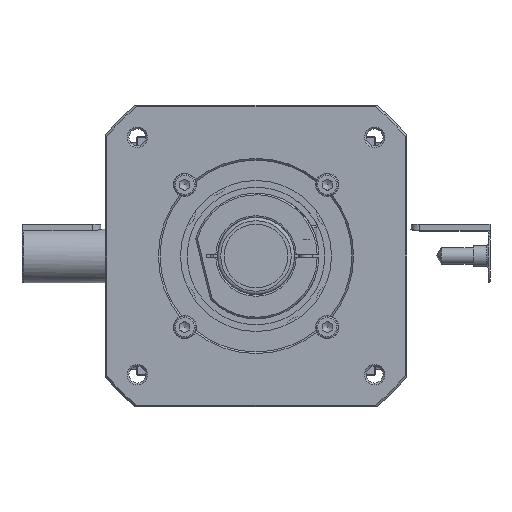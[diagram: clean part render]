
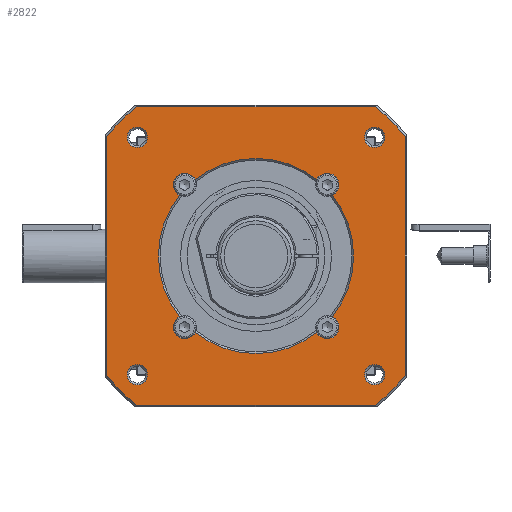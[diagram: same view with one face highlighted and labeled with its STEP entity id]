
A CAD part, front view. The second image highlights one B-rep face of the part: STEP entity #2822.
In plain terms, the highlighted planar face has unit normal (0, -1, 0).
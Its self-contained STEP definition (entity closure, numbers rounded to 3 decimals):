
#2625=CARTESIAN_POINT('',(-64.658,-258.,-70.711));
#2626=VERTEX_POINT('',#2625);
#2627=CARTESIAN_POINT('',(-70.711,-258.,-70.711));
#2628=DIRECTION('',(0.0,-1.0,0.0));
#2629=DIRECTION('',(-1.0,0.0,0.0));
#2630=AXIS2_PLACEMENT_3D('',#2627,#2628,#2629);
#2631=CIRCLE('',#2630,6.053);
#2632=EDGE_CURVE('',#2626,#2626,#2631,.T.);
#2637=CARTESIAN_POINT('',(0.,-258.,0.));
#2638=DIRECTION('',(0.0,1.0,0.0));
#2639=DIRECTION('',(-1.0,0.0,0.0));
#2640=AXIS2_PLACEMENT_3D('',#2637,#2638,#2639);
#2641=PLANE('',#2640);
#2642=CARTESIAN_POINT('',(71.239,-258.,-89.));
#2643=VERTEX_POINT('',#2642);
#2644=CARTESIAN_POINT('',(-71.239,-258.,-89.0));
#2645=VERTEX_POINT('',#2644);
#2646=CARTESIAN_POINT('',(71.239,-258.,-89.));
#2647=DIRECTION('',(-1.0,0.0,0.0));
#2648=VECTOR('',#2647,142.478);
#2649=LINE('',#2646,#2648);
#2650=EDGE_CURVE('',#2643,#2645,#2649,.T.);
#2651=ORIENTED_EDGE('',*,*,#2650,.F.);
#2652=CARTESIAN_POINT('',(89.,-258.,-71.239));
#2653=VERTEX_POINT('',#2652);
#2654=CARTESIAN_POINT('',(0.,-258.,0.));
#2655=DIRECTION('',(0.0,1.0,0.0));
#2656=DIRECTION('',(1.0,0.0,0.0));
#2657=AXIS2_PLACEMENT_3D('',#2654,#2655,#2656);
#2658=CIRCLE('',#2657,114.0);
#2659=EDGE_CURVE('',#2653,#2643,#2658,.T.);
#2660=ORIENTED_EDGE('',*,*,#2659,.F.);
#2661=CARTESIAN_POINT('',(89.,-258.,71.239));
#2662=VERTEX_POINT('',#2661);
#2663=CARTESIAN_POINT('',(89.,-258.,71.239));
#2664=DIRECTION('',(0.0,0.0,-1.0));
#2665=VECTOR('',#2664,142.478);
#2666=LINE('',#2663,#2665);
#2667=EDGE_CURVE('',#2662,#2653,#2666,.T.);
#2668=ORIENTED_EDGE('',*,*,#2667,.F.);
#2669=CARTESIAN_POINT('',(71.239,-258.,89.));
#2670=VERTEX_POINT('',#2669);
#2671=CARTESIAN_POINT('',(0.,-258.,0.));
#2672=DIRECTION('',(0.0,1.0,0.0));
#2673=DIRECTION('',(1.0,0.0,0.0));
#2674=AXIS2_PLACEMENT_3D('',#2671,#2672,#2673);
#2675=CIRCLE('',#2674,114.0);
#2676=EDGE_CURVE('',#2670,#2662,#2675,.T.);
#2677=ORIENTED_EDGE('',*,*,#2676,.F.);
#2678=CARTESIAN_POINT('',(-71.239,-258.,89.));
#2679=VERTEX_POINT('',#2678);
#2680=CARTESIAN_POINT('',(-71.239,-258.,89.));
#2681=DIRECTION('',(1.0,0.0,0.0));
#2682=VECTOR('',#2681,142.478);
#2683=LINE('',#2680,#2682);
#2684=EDGE_CURVE('',#2679,#2670,#2683,.T.);
#2685=ORIENTED_EDGE('',*,*,#2684,.F.);
#2686=CARTESIAN_POINT('',(-89.,-258.,71.239));
#2687=VERTEX_POINT('',#2686);
#2688=CARTESIAN_POINT('',(0.,-258.,0.));
#2689=DIRECTION('',(0.0,1.0,0.0));
#2690=DIRECTION('',(-1.0,0.0,0.0));
#2691=AXIS2_PLACEMENT_3D('',#2688,#2689,#2690);
#2692=CIRCLE('',#2691,114.0);
#2693=EDGE_CURVE('',#2687,#2679,#2692,.T.);
#2694=ORIENTED_EDGE('',*,*,#2693,.F.);
#2695=CARTESIAN_POINT('',(-89.,-258.,-71.239));
#2696=VERTEX_POINT('',#2695);
#2697=CARTESIAN_POINT('',(-89.,-258.,-71.239));
#2698=DIRECTION('',(0.0,0.0,1.0));
#2699=VECTOR('',#2698,142.478);
#2700=LINE('',#2697,#2699);
#2701=EDGE_CURVE('',#2696,#2687,#2700,.T.);
#2702=ORIENTED_EDGE('',*,*,#2701,.F.);
#2703=CARTESIAN_POINT('',(0.,-258.,0.));
#2704=DIRECTION('',(0.0,1.0,0.0));
#2705=DIRECTION('',(-1.0,0.0,0.0));
#2706=AXIS2_PLACEMENT_3D('',#2703,#2704,#2705);
#2707=CIRCLE('',#2706,114.0);
#2708=EDGE_CURVE('',#2645,#2696,#2707,.T.);
#2709=ORIENTED_EDGE('',*,*,#2708,.F.);
#2710=EDGE_LOOP('',(#2651,#2660,#2668,#2677,#2685,#2694,#2702,#2709));
#2711=FACE_OUTER_BOUND('',#2710,.T.);
#2712=CARTESIAN_POINT('',(76.764,-258.,-70.711));
#2713=VERTEX_POINT('',#2712);
#2714=CARTESIAN_POINT('',(70.711,-258.,-70.711));
#2715=DIRECTION('',(0.0,-1.0,0.0));
#2716=DIRECTION('',(-1.0,0.0,0.0));
#2717=AXIS2_PLACEMENT_3D('',#2714,#2715,#2716);
#2718=CIRCLE('',#2717,6.053);
#2719=EDGE_CURVE('',#2713,#2713,#2718,.T.);
#2720=ORIENTED_EDGE('',*,*,#2719,.F.);
#2721=EDGE_LOOP('',(#2720));
#2722=FACE_BOUND('',#2721,.T.);
#2723=CARTESIAN_POINT('',(-64.658,-258.,70.711));
#2724=VERTEX_POINT('',#2723);
#2725=CARTESIAN_POINT('',(-70.711,-258.,70.711));
#2726=DIRECTION('',(0.0,-1.0,0.0));
#2727=DIRECTION('',(-1.0,0.0,0.0));
#2728=AXIS2_PLACEMENT_3D('',#2725,#2726,#2727);
#2729=CIRCLE('',#2728,6.053);
#2730=EDGE_CURVE('',#2724,#2724,#2729,.T.);
#2731=ORIENTED_EDGE('',*,*,#2730,.F.);
#2732=EDGE_LOOP('',(#2731));
#2733=FACE_BOUND('',#2732,.T.);
#2734=CARTESIAN_POINT('',(45.542,-258.,-36.158));
#2735=VERTEX_POINT('',#2734);
#2736=CARTESIAN_POINT('',(45.542,-258.,36.158));
#2737=VERTEX_POINT('',#2736);
#2738=CARTESIAN_POINT('',(0.,-258.,0.));
#2739=DIRECTION('',(0.0,-1.0,0.0));
#2740=DIRECTION('',(1.0,0.0,0.0));
#2741=AXIS2_PLACEMENT_3D('',#2738,#2739,#2740);
#2742=CIRCLE('',#2741,58.15);
#2743=EDGE_CURVE('',#2735,#2737,#2742,.T.);
#2744=ORIENTED_EDGE('',*,*,#2743,.F.);
#2745=CARTESIAN_POINT('',(36.158,-258.,-45.542));
#2746=VERTEX_POINT('',#2745);
#2747=CARTESIAN_POINT('',(42.426,-258.,-42.426));
#2748=DIRECTION('',(0.0,1.0,0.0));
#2749=DIRECTION('',(1.0,0.0,0.0));
#2750=AXIS2_PLACEMENT_3D('',#2747,#2748,#2749);
#2751=CIRCLE('',#2750,7.);
#2752=EDGE_CURVE('',#2735,#2746,#2751,.T.);
#2753=ORIENTED_EDGE('',*,*,#2752,.T.);
#2754=CARTESIAN_POINT('',(-36.158,-258.,-45.542));
#2755=VERTEX_POINT('',#2754);
#2756=CARTESIAN_POINT('',(0.,-258.,0.));
#2757=DIRECTION('',(0.0,-1.0,0.0));
#2758=DIRECTION('',(-1.0,0.0,0.0));
#2759=AXIS2_PLACEMENT_3D('',#2756,#2757,#2758);
#2760=CIRCLE('',#2759,58.15);
#2761=EDGE_CURVE('',#2755,#2746,#2760,.T.);
#2762=ORIENTED_EDGE('',*,*,#2761,.F.);
#2763=CARTESIAN_POINT('',(-45.542,-258.,-36.158));
#2764=VERTEX_POINT('',#2763);
#2765=CARTESIAN_POINT('',(-42.426,-258.,-42.426));
#2766=DIRECTION('',(0.0,1.0,0.0));
#2767=DIRECTION('',(1.0,0.0,0.0));
#2768=AXIS2_PLACEMENT_3D('',#2765,#2766,#2767);
#2769=CIRCLE('',#2768,7.);
#2770=EDGE_CURVE('',#2755,#2764,#2769,.T.);
#2771=ORIENTED_EDGE('',*,*,#2770,.T.);
#2772=CARTESIAN_POINT('',(-45.542,-258.,36.158));
#2773=VERTEX_POINT('',#2772);
#2774=CARTESIAN_POINT('',(0.,-258.,0.));
#2775=DIRECTION('',(0.0,-1.0,0.0));
#2776=DIRECTION('',(-1.0,0.0,0.0));
#2777=AXIS2_PLACEMENT_3D('',#2774,#2775,#2776);
#2778=CIRCLE('',#2777,58.15);
#2779=EDGE_CURVE('',#2773,#2764,#2778,.T.);
#2780=ORIENTED_EDGE('',*,*,#2779,.F.);
#2781=CARTESIAN_POINT('',(-36.158,-258.,45.542));
#2782=VERTEX_POINT('',#2781);
#2783=CARTESIAN_POINT('',(-42.426,-258.,42.426));
#2784=DIRECTION('',(0.0,1.0,0.0));
#2785=DIRECTION('',(1.0,0.0,0.0));
#2786=AXIS2_PLACEMENT_3D('',#2783,#2784,#2785);
#2787=CIRCLE('',#2786,7.);
#2788=EDGE_CURVE('',#2773,#2782,#2787,.T.);
#2789=ORIENTED_EDGE('',*,*,#2788,.T.);
#2790=CARTESIAN_POINT('',(36.158,-258.,45.542));
#2791=VERTEX_POINT('',#2790);
#2792=CARTESIAN_POINT('',(0.,-258.,0.));
#2793=DIRECTION('',(0.0,-1.0,0.0));
#2794=DIRECTION('',(-1.0,0.0,0.0));
#2795=AXIS2_PLACEMENT_3D('',#2792,#2793,#2794);
#2796=CIRCLE('',#2795,58.15);
#2797=EDGE_CURVE('',#2791,#2782,#2796,.T.);
#2798=ORIENTED_EDGE('',*,*,#2797,.F.);
#2799=CARTESIAN_POINT('',(42.426,-258.,42.426));
#2800=DIRECTION('',(0.0,1.0,0.0));
#2801=DIRECTION('',(1.0,0.0,0.0));
#2802=AXIS2_PLACEMENT_3D('',#2799,#2800,#2801);
#2803=CIRCLE('',#2802,7.);
#2804=EDGE_CURVE('',#2791,#2737,#2803,.T.);
#2805=ORIENTED_EDGE('',*,*,#2804,.T.);
#2806=EDGE_LOOP('',(#2744,#2753,#2762,#2771,#2780,#2789,#2798,#2805));
#2807=FACE_BOUND('',#2806,.T.);
#2808=CARTESIAN_POINT('',(76.764,-258.,70.711));
#2809=VERTEX_POINT('',#2808);
#2810=CARTESIAN_POINT('',(70.711,-258.,70.711));
#2811=DIRECTION('',(0.0,-1.0,0.0));
#2812=DIRECTION('',(-1.0,0.0,0.0));
#2813=AXIS2_PLACEMENT_3D('',#2810,#2811,#2812);
#2814=CIRCLE('',#2813,6.053);
#2815=EDGE_CURVE('',#2809,#2809,#2814,.T.);
#2816=ORIENTED_EDGE('',*,*,#2815,.F.);
#2817=EDGE_LOOP('',(#2816));
#2818=FACE_BOUND('',#2817,.T.);
#2819=ORIENTED_EDGE('',*,*,#2632,.F.);
#2820=EDGE_LOOP('',(#2819));
#2821=FACE_BOUND('',#2820,.T.);
#2822=ADVANCED_FACE('',(#2711,#2722,#2733,#2807,#2818,#2821),#2641,.F.);
